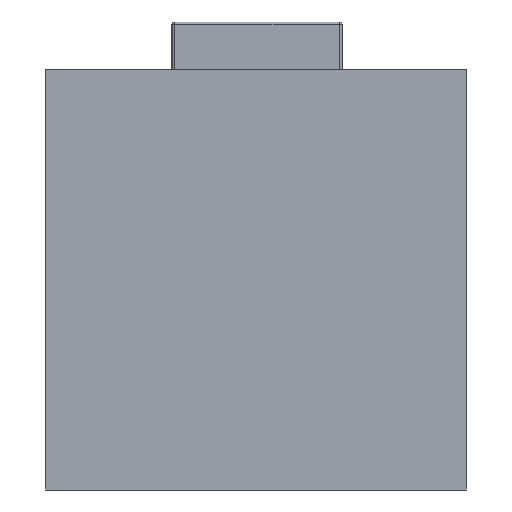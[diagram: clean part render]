
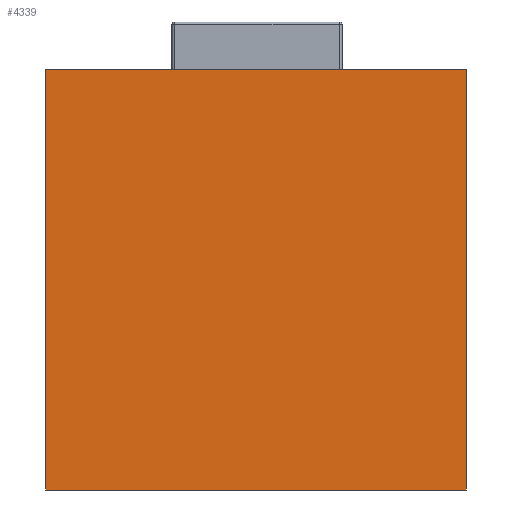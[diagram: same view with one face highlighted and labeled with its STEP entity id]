
A CAD part, front view. The second image highlights one B-rep face of the part: STEP entity #4339.
In plain terms, the highlighted planar face has unit normal (0, -1, 0).
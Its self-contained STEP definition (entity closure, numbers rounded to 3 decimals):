
#59 = LINE ( 'NONE', #2840, #3083 ) ;
#129 = FACE_OUTER_BOUND ( 'NONE', #1256, .T. ) ;
#191 = VERTEX_POINT ( 'NONE', #3164 ) ;
#511 = LINE ( 'NONE', #893, #2822 ) ;
#550 = VERTEX_POINT ( 'NONE', #4299 ) ;
#594 = CARTESIAN_POINT ( 'NONE',  ( 55., 68., 55. ) ) ;
#779 = ORIENTED_EDGE ( 'NONE', *, *, #2752, .F. ) ;
#893 = CARTESIAN_POINT ( 'NONE',  ( -55., 68., 55. ) ) ;
#1147 = PLANE ( 'NONE',  #1800 ) ;
#1256 = EDGE_LOOP ( 'NONE', ( #779, #1715, #2147, #4114 ) ) ;
#1489 = EDGE_CURVE ( 'NONE', #550, #1622, #511, .T. ) ;
#1545 = LINE ( 'NONE', #4365, #2477 ) ;
#1622 = VERTEX_POINT ( 'NONE', #3424 ) ;
#1684 = DIRECTION ( 'NONE',  ( 0., 0., -1. ) ) ;
#1715 = ORIENTED_EDGE ( 'NONE', *, *, #1489, .F. ) ;
#1800 = AXIS2_PLACEMENT_3D ( 'NONE', #4209, #1878, #2183 ) ;
#1878 = DIRECTION ( 'NONE',  ( 0., -1., 0. ) ) ;
#2040 = VECTOR ( 'NONE', #4278, 1000. ) ;
#2147 = ORIENTED_EDGE ( 'NONE', *, *, #3216, .F. ) ;
#2154 = LINE ( 'NONE', #2918, #2040 ) ;
#2183 = DIRECTION ( 'NONE',  ( 1., 0., 0. ) ) ;
#2477 = VECTOR ( 'NONE', #3698, 1000. ) ;
#2752 = EDGE_CURVE ( 'NONE', #1622, #3499, #2154, .T. ) ;
#2822 = VECTOR ( 'NONE', #4260, 1000. ) ;
#2840 = CARTESIAN_POINT ( 'NONE',  ( 55., 68., -55. ) ) ;
#2918 = CARTESIAN_POINT ( 'NONE',  ( 55., 68., 55. ) ) ;
#3083 = VECTOR ( 'NONE', #1684, 1000. ) ;
#3164 = CARTESIAN_POINT ( 'NONE',  ( 55., 68., -55. ) ) ;
#3216 = EDGE_CURVE ( 'NONE', #191, #550, #1545, .T. ) ;
#3424 = CARTESIAN_POINT ( 'NONE',  ( -55., 68., 55. ) ) ;
#3499 = VERTEX_POINT ( 'NONE', #594 ) ;
#3698 = DIRECTION ( 'NONE',  ( -1., 0., 0. ) ) ;
#3800 = EDGE_CURVE ( 'NONE', #3499, #191, #59, .T. ) ;
#4114 = ORIENTED_EDGE ( 'NONE', *, *, #3800, .F. ) ;
#4209 = CARTESIAN_POINT ( 'NONE',  ( -55., 68., -55. ) ) ;
#4260 = DIRECTION ( 'NONE',  ( 0., 0., 1. ) ) ;
#4278 = DIRECTION ( 'NONE',  ( 1., 0., 0. ) ) ;
#4299 = CARTESIAN_POINT ( 'NONE',  ( -55., 68., -55. ) ) ;
#4339 = ADVANCED_FACE ( 'NONE', ( #129 ), #1147, .T. ) ;
#4365 = CARTESIAN_POINT ( 'NONE',  ( -55., 68., -55. ) ) ;
